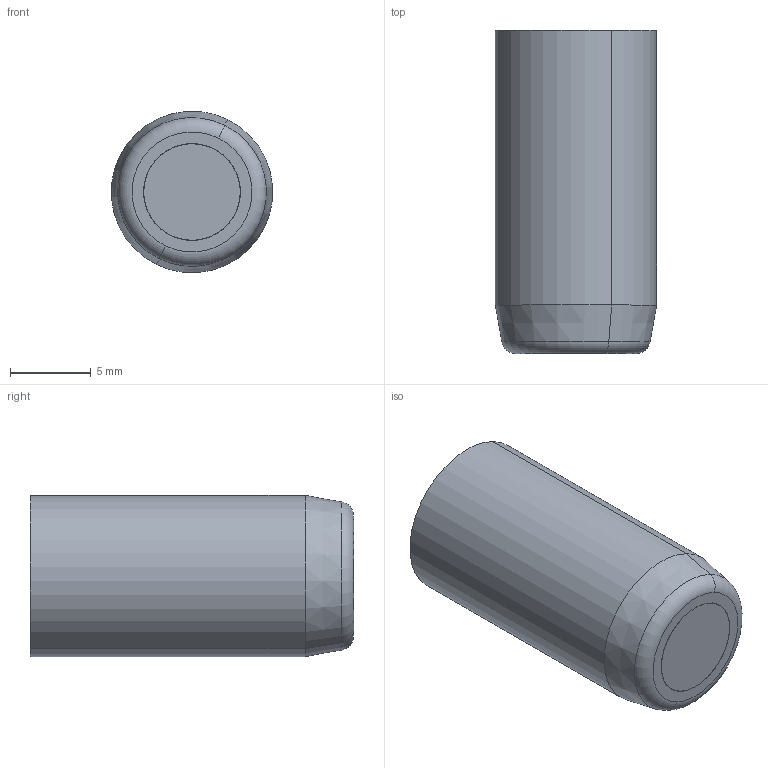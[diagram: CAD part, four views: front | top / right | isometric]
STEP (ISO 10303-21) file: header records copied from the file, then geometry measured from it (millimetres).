
FILE_DESCRIPTION (( 'STEP AP214' ), '1' );
FILE_NAME ('FA105700.STEP', '2013-06-28T07:50:04', ( '' ), ( '' ), 'SwSTEP 2.0', 'SolidWorks 2011', '' );
FILE_SCHEMA (( 'AUTOMOTIVE_DESIGN' ));
Length unit declared in the file: millimetre
Products named in the file (6): FA 105700-1; FA 105700-3; 9FA 105700; FA 084700-2 comprimido; FA105700; IA 5717SF
Assembly tree (5 placements, depth 2):
  FA105700
    FA 105700-3
    FA 105700-1
    FA 084700-2 comprimido
    9FA 105700
    IA 5717SF
Bounding box: 9.98 x 20 x 9.98 mm (x, y, z)
Volume: 1395.6 mm3; surface area: 1730 mm2
Topology: 5 solids, 5 shells, 114 faces, 257 edges, 158 vertices
Faces by surface type: plane 43, cylinder 31, cone 24, torus 12, bspline 2, sphere 2
Entity records: 4853 total; most frequent: CARTESIAN_POINT 2005, DIRECTION 573, ORIENTED_EDGE 510, EDGE_CURVE 255, AXIS2_PLACEMENT_3D 234, VERTEX_POINT 158, EDGE_LOOP 129, ADVANCED_FACE 114
